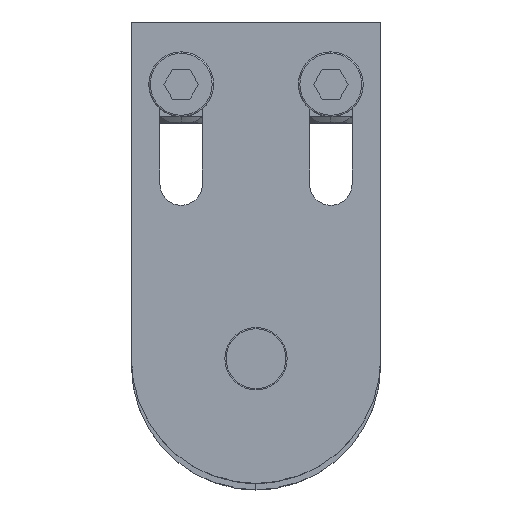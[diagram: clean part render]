
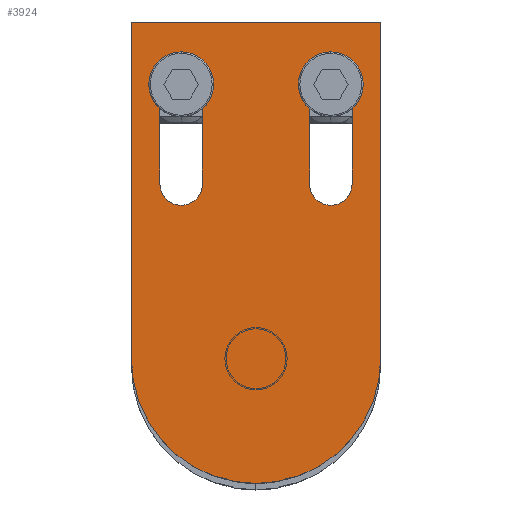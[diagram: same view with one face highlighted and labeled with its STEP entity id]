
A CAD part, top view. The second image highlights one B-rep face of the part: STEP entity #3924.
In plain terms, the highlighted planar face has unit normal (0, 0, 1) as drawn and (0, 0, -1) by its records, which use the part's own axes.
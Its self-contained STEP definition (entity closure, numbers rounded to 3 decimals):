
#206 = DIRECTION ( 'NONE',  ( -1., 0., 0. ) ) ;
#207 = ORIENTED_EDGE ( 'NONE', *, *, #355, .F. ) ;
#225 = VECTOR ( 'NONE', #206, 1000. ) ;
#239 = CIRCLE ( 'NONE', #3271, 25. ) ;
#286 = EDGE_CURVE ( 'NONE', #3532, #2963, #2880, .T. ) ;
#355 = EDGE_CURVE ( 'NONE', #4064, #2669, #2055, .T. ) ;
#391 = AXIS2_PLACEMENT_3D ( 'NONE', #3068, #3730, #2017 ) ;
#397 = CARTESIAN_POINT ( 'NONE',  ( 19.25, 35., -6. ) ) ;
#418 = CARTESIAN_POINT ( 'NONE',  ( 15., 35., -6. ) ) ;
#470 = AXIS2_PLACEMENT_3D ( 'NONE', #3191, #3519, #1762 ) ;
#489 = EDGE_LOOP ( 'NONE', ( #1977, #1329, #3954, #2389 ) ) ;
#527 = CARTESIAN_POINT ( 'NONE',  ( 25., 0., -6. ) ) ;
#534 = CARTESIAN_POINT ( 'NONE',  ( 25., 67.5, -6. ) ) ;
#541 = AXIS2_PLACEMENT_3D ( 'NONE', #1643, #1012, #2677 ) ;
#569 = DIRECTION ( 'NONE',  ( 0., -1., 0. ) ) ;
#594 = CIRCLE ( 'NONE', #3041, 4.25 ) ;
#598 = CARTESIAN_POINT ( 'NONE',  ( -10.75, 35., -6. ) ) ;
#614 = EDGE_LOOP ( 'NONE', ( #3613, #1798, #1139, #3224 ) ) ;
#689 = DIRECTION ( 'NONE',  ( 0., -1., 0. ) ) ;
#709 = VECTOR ( 'NONE', #569, 1000. ) ;
#736 = CARTESIAN_POINT ( 'NONE',  ( 0., 0., -6. ) ) ;
#749 = DIRECTION ( 'NONE',  ( 1., 0., 0. ) ) ;
#799 = DIRECTION ( 'NONE',  ( 0., 0., 1. ) ) ;
#833 = DIRECTION ( 'NONE',  ( 1., 0., 0. ) ) ;
#858 = LINE ( 'NONE', #1877, #3452 ) ;
#918 = VECTOR ( 'NONE', #1214, 1000. ) ;
#923 = VERTEX_POINT ( 'NONE', #3704 ) ;
#1012 = DIRECTION ( 'NONE',  ( 0., 0., 1. ) ) ;
#1021 = CARTESIAN_POINT ( 'NONE',  ( 10.75, 35., -6. ) ) ;
#1038 = EDGE_CURVE ( 'NONE', #1788, #2236, #594, .T. ) ;
#1040 = ORIENTED_EDGE ( 'NONE', *, *, #1440, .F. ) ;
#1077 = DIRECTION ( 'NONE',  ( 0., 0., 1. ) ) ;
#1139 = ORIENTED_EDGE ( 'NONE', *, *, #2072, .T. ) ;
#1214 = DIRECTION ( 'NONE',  ( 0., 1., 0. ) ) ;
#1232 = CARTESIAN_POINT ( 'NONE',  ( -10.75, 55., -6. ) ) ;
#1300 = VERTEX_POINT ( 'NONE', #3569 ) ;
#1312 = FACE_OUTER_BOUND ( 'NONE', #2177, .T. ) ;
#1329 = ORIENTED_EDGE ( 'NONE', *, *, #1710, .T. ) ;
#1372 = CARTESIAN_POINT ( 'NONE',  ( -19.25, 35., -6. ) ) ;
#1440 = EDGE_CURVE ( 'NONE', #1300, #2546, #2210, .T. ) ;
#1451 = DIRECTION ( 'NONE',  ( 0., 0., 1. ) ) ;
#1553 = CARTESIAN_POINT ( 'NONE',  ( -10.75, 35., -6. ) ) ;
#1612 = DIRECTION ( 'NONE',  ( 0., 1., 0. ) ) ;
#1624 = EDGE_CURVE ( 'NONE', #2634, #923, #3199, .T. ) ;
#1643 = CARTESIAN_POINT ( 'NONE',  ( 0., 0., -6. ) ) ;
#1645 = CARTESIAN_POINT ( 'NONE',  ( -19.25, 55., -6. ) ) ;
#1710 = EDGE_CURVE ( 'NONE', #923, #3532, #3406, .T. ) ;
#1762 = DIRECTION ( 'NONE',  ( -1., 0., 0. ) ) ;
#1788 = VERTEX_POINT ( 'NONE', #1021 ) ;
#1794 = EDGE_CURVE ( 'NONE', #2958, #4280, #2470, .T. ) ;
#1798 = ORIENTED_EDGE ( 'NONE', *, *, #1038, .T. ) ;
#1813 = CARTESIAN_POINT ( 'NONE',  ( -25., 0., -6. ) ) ;
#1877 = CARTESIAN_POINT ( 'NONE',  ( 19.25, 35., -6. ) ) ;
#1890 = CARTESIAN_POINT ( 'NONE',  ( 25., 67.5, -6. ) ) ;
#1936 = EDGE_CURVE ( 'NONE', #2546, #4064, #4305, .T. ) ;
#1977 = ORIENTED_EDGE ( 'NONE', *, *, #1624, .T. ) ;
#2017 = DIRECTION ( 'NONE',  ( 1., 0., 0. ) ) ;
#2055 = LINE ( 'NONE', #3545, #709 ) ;
#2072 = EDGE_CURVE ( 'NONE', #2236, #2958, #858, .T. ) ;
#2108 = ORIENTED_EDGE ( 'NONE', *, *, #3385, .F. ) ;
#2177 = EDGE_LOOP ( 'NONE', ( #2108, #207, #4256, #1040 ) ) ;
#2193 = CIRCLE ( 'NONE', #3389, 4.25 ) ;
#2210 = LINE ( 'NONE', #527, #918 ) ;
#2236 = VERTEX_POINT ( 'NONE', #397 ) ;
#2386 = DIRECTION ( 'NONE',  ( 0., -1., 0. ) ) ;
#2389 = ORIENTED_EDGE ( 'NONE', *, *, #4298, .T. ) ;
#2438 = LINE ( 'NONE', #3035, #3783 ) ;
#2470 = CIRCLE ( 'NONE', #470, 4.25 ) ;
#2546 = VERTEX_POINT ( 'NONE', #534 ) ;
#2634 = VERTEX_POINT ( 'NONE', #1645 ) ;
#2669 = VERTEX_POINT ( 'NONE', #1813 ) ;
#2676 = VECTOR ( 'NONE', #689, 1000. ) ;
#2677 = DIRECTION ( 'NONE',  ( 1., 0., 0. ) ) ;
#2792 = CARTESIAN_POINT ( 'NONE',  ( 10.75, 55., -6. ) ) ;
#2875 = DIRECTION ( 'NONE',  ( 0., 1., 0. ) ) ;
#2880 = LINE ( 'NONE', #598, #3556 ) ;
#2958 = VERTEX_POINT ( 'NONE', #3947 ) ;
#2963 = VERTEX_POINT ( 'NONE', #1232 ) ;
#3035 = CARTESIAN_POINT ( 'NONE',  ( 10.75, 35., -6. ) ) ;
#3041 = AXIS2_PLACEMENT_3D ( 'NONE', #418, #1451, #3116 ) ;
#3045 = CARTESIAN_POINT ( 'NONE',  ( -25., 67.5, -6. ) ) ;
#3068 = CARTESIAN_POINT ( 'NONE',  ( -15., 35., -6. ) ) ;
#3092 = FACE_BOUND ( 'NONE', #489, .T. ) ;
#3116 = DIRECTION ( 'NONE',  ( -1., 0., 0. ) ) ;
#3191 = CARTESIAN_POINT ( 'NONE',  ( 15., 55., -6. ) ) ;
#3199 = LINE ( 'NONE', #1372, #2676 ) ;
#3224 = ORIENTED_EDGE ( 'NONE', *, *, #1794, .T. ) ;
#3271 = AXIS2_PLACEMENT_3D ( 'NONE', #736, #1077, #749 ) ;
#3304 = PLANE ( 'NONE',  #541 ) ;
#3342 = EDGE_CURVE ( 'NONE', #4280, #1788, #2438, .T. ) ;
#3385 = EDGE_CURVE ( 'NONE', #2669, #1300, #239, .T. ) ;
#3389 = AXIS2_PLACEMENT_3D ( 'NONE', #3474, #799, #833 ) ;
#3406 = CIRCLE ( 'NONE', #391, 4.25 ) ;
#3452 = VECTOR ( 'NONE', #1612, 1000. ) ;
#3474 = CARTESIAN_POINT ( 'NONE',  ( -15., 55., -6. ) ) ;
#3519 = DIRECTION ( 'NONE',  ( 0., 0., 1. ) ) ;
#3532 = VERTEX_POINT ( 'NONE', #1553 ) ;
#3545 = CARTESIAN_POINT ( 'NONE',  ( -25., 0., -6. ) ) ;
#3556 = VECTOR ( 'NONE', #2875, 1000. ) ;
#3569 = CARTESIAN_POINT ( 'NONE',  ( 25., 0., -6. ) ) ;
#3613 = ORIENTED_EDGE ( 'NONE', *, *, #3342, .T. ) ;
#3704 = CARTESIAN_POINT ( 'NONE',  ( -19.25, 35., -6. ) ) ;
#3730 = DIRECTION ( 'NONE',  ( 0., 0., 1. ) ) ;
#3783 = VECTOR ( 'NONE', #2386, 1000. ) ;
#3924 = ADVANCED_FACE ( 'NONE', ( #4194, #3092, #1312 ), #3304, .F. ) ;
#3947 = CARTESIAN_POINT ( 'NONE',  ( 19.25, 55., -6. ) ) ;
#3954 = ORIENTED_EDGE ( 'NONE', *, *, #286, .T. ) ;
#4064 = VERTEX_POINT ( 'NONE', #3045 ) ;
#4194 = FACE_BOUND ( 'NONE', #614, .T. ) ;
#4256 = ORIENTED_EDGE ( 'NONE', *, *, #1936, .F. ) ;
#4280 = VERTEX_POINT ( 'NONE', #2792 ) ;
#4298 = EDGE_CURVE ( 'NONE', #2963, #2634, #2193, .T. ) ;
#4305 = LINE ( 'NONE', #1890, #225 ) ;
